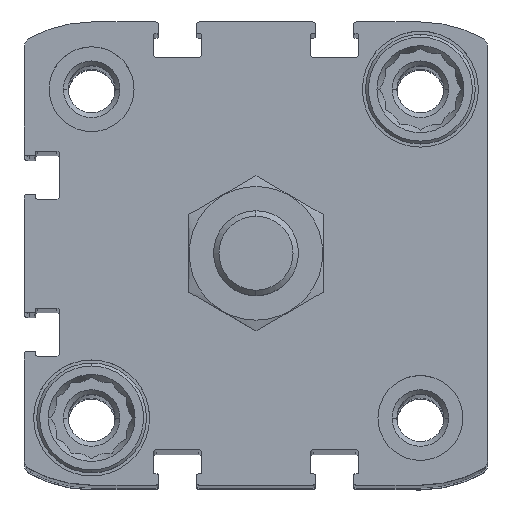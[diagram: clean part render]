
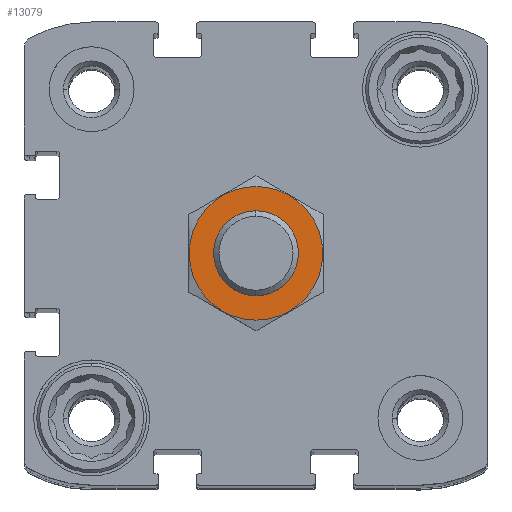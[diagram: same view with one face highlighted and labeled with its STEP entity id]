
A CAD part, top view. The second image highlights one B-rep face of the part: STEP entity #13079.
In plain terms, the highlighted planar face has unit normal (0, 0, 1) as drawn and (0, 1, 0) by its records, which use the part's own axes.
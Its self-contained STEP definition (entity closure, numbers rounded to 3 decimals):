
#940 = DIRECTION ( 'NONE',  ( 1., 0., 0. ) ) ;
#1490 = CARTESIAN_POINT ( 'NONE',  ( 0., 0., -6. ) ) ;
#1639 = VERTEX_POINT ( 'NONE', #9549 ) ;
#1697 = ORIENTED_EDGE ( 'NONE', *, *, #8089, .F. ) ;
#2584 = EDGE_LOOP ( 'NONE', ( #13499, #14112 ) ) ;
#2949 = AXIS2_PLACEMENT_3D ( 'NONE', #3247, #12061, #4544 ) ;
#3247 = CARTESIAN_POINT ( 'NONE',  ( 0., 0., 0. ) ) ;
#3464 = CARTESIAN_POINT ( 'NONE',  ( 9.45, 0., 0. ) ) ;
#4318 = VERTEX_POINT ( 'NONE', #3464 ) ;
#4381 = CARTESIAN_POINT ( 'NONE',  ( 0., 0., 0. ) ) ;
#4522 = VERTEX_POINT ( 'NONE', #1490 ) ;
#4544 = DIRECTION ( 'NONE',  ( 1., 0., 0. ) ) ;
#4921 = CARTESIAN_POINT ( 'NONE',  ( 0., 0., 0. ) ) ;
#5028 = PLANE ( 'NONE',  #11325 ) ;
#5663 = DIRECTION ( 'NONE',  ( 0., 0., 1. ) ) ;
#6212 = DIRECTION ( 'NONE',  ( 0., 0., 1. ) ) ;
#6313 = DIRECTION ( 'NONE',  ( 0., 0., -1. ) ) ;
#6320 = AXIS2_PLACEMENT_3D ( 'NONE', #4921, #13680, #6212 ) ;
#6788 = CIRCLE ( 'NONE', #14984, 6. ) ;
#8006 = EDGE_CURVE ( 'NONE', #1639, #4522, #6788, .T. ) ;
#8089 = EDGE_CURVE ( 'NONE', #15922, #4318, #11470, .T. ) ;
#8465 = DIRECTION ( 'NONE',  ( 0., -1., 0. ) ) ;
#9207 = EDGE_CURVE ( 'NONE', #4318, #15922, #15543, .T. ) ;
#9304 = CARTESIAN_POINT ( 'NONE',  ( -9.45, 0., 0. ) ) ;
#9549 = CARTESIAN_POINT ( 'NONE',  ( 0., 0., 6. ) ) ;
#10711 = EDGE_LOOP ( 'NONE', ( #15537, #1697 ) ) ;
#11325 = AXIS2_PLACEMENT_3D ( 'NONE', #12530, #13782, #6313 ) ;
#11470 = CIRCLE ( 'NONE', #2949, 9.45 ) ;
#12061 = DIRECTION ( 'NONE',  ( 0., -1., 0. ) ) ;
#12345 = FACE_BOUND ( 'NONE', #2584, .T. ) ;
#12530 = CARTESIAN_POINT ( 'NONE',  ( 0., 0., 0. ) ) ;
#13079 = ADVANCED_FACE ( 'NONE', ( #12345, #15015 ), #5028, .F. ) ;
#13148 = DIRECTION ( 'NONE',  ( 0., -1., 0. ) ) ;
#13499 = ORIENTED_EDGE ( 'NONE', *, *, #8006, .T. ) ;
#13680 = DIRECTION ( 'NONE',  ( 0., -1., 0. ) ) ;
#13782 = DIRECTION ( 'NONE',  ( 0., -1., 0. ) ) ;
#13803 = AXIS2_PLACEMENT_3D ( 'NONE', #15797, #8465, #940 ) ;
#14112 = ORIENTED_EDGE ( 'NONE', *, *, #15002, .T. ) ;
#14984 = AXIS2_PLACEMENT_3D ( 'NONE', #4381, #13148, #5663 ) ;
#15002 = EDGE_CURVE ( 'NONE', #4522, #1639, #15318, .T. ) ;
#15015 = FACE_OUTER_BOUND ( 'NONE', #10711, .T. ) ;
#15318 = CIRCLE ( 'NONE', #6320, 6. ) ;
#15537 = ORIENTED_EDGE ( 'NONE', *, *, #9207, .F. ) ;
#15543 = CIRCLE ( 'NONE', #13803, 9.45 ) ;
#15797 = CARTESIAN_POINT ( 'NONE',  ( 0., 0., 0. ) ) ;
#15922 = VERTEX_POINT ( 'NONE', #9304 ) ;
